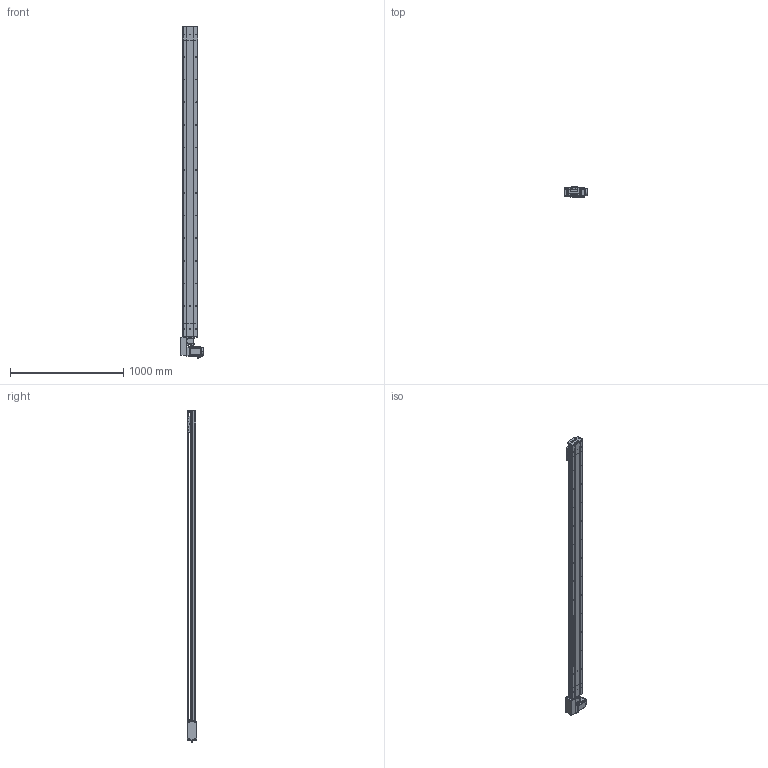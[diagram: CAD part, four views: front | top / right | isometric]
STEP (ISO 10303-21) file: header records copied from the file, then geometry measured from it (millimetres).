
FILE_DESCRIPTION (( 'STEP AP214' ), '1' );
FILE_NAME ('D14 TBH RH S2500.STEP', '2010-06-29T14:32:18', ( 'Conseil Régional Haute-Normandie' ), ( 'Conseil Régional Haute-Normandie' ), 'SwSTEP 2.0', 'SolidWorks 2010', '' );
FILE_SCHEMA (( 'AUTOMOTIVE_DESIGN' ));
Length unit declared in the file: millimetre
Products named in the file (39): corpl tail D14_Default; corps 90BLDC100A-640; vis M5 L16_Default; Couroie_Default; poulie head_Default; Moteur motionking 90BLDC100A-640; couvercle D14 head_Default; couvercle D14_Default; Arbre+rail tail D14; plaque de  bout tail D14_Default; tete d''axe haut D14; D14 TB H RH_Default; vis M5 L8 90°_Default; corp head D14_Default; poulie tail_Default; Arbre+rail head D14; plaque de  bout head D14 RH_Default; couroie 2_Default; avant 90BLDC100A-640; Conecteur_Default; vis M5 L5_Default; renvoi RH_Default; Chariot D14; Cache arbre_Default; Conecteur2_Default; codeur 90BLDC100-640; chariot D14B_Default; Cvis M5 L70_Default; Vis M5 L16-2_Default; Cache_Default; Plaque racord D14_Default; guide D14; vis M5 L12_Default; Tail D14B_Default; couvercle D14 course L2500_Default; D14 couroie L2500_Default; D14 TBH RH S2500; Rail + couroie D14 Course 2500 ; corpl 2500_Default
Assembly tree (68 placements, depth 4):
  D14 TBH RH S2500
    Tail D14B_Default
      vis M5 L12_Default  x4
      Couroie_Default
      vis M5 L8 90°_Default  x2
      plaque de  bout tail D14_Default
      vis M5 L16_Default  x2
      couvercle D14_Default
      Arbre+rail tail D14
      corpl tail D14_Default
      poulie tail_Default
      tete d''axe haut D14
    D14 TB H RH_Default
      couroie 2_Default
      vis M5 L12_Default  x12
      Cache_Default  x2
      Cvis M5 L70_Default  x4
      renvoi RH_Default
      Moteur motionking 90BLDC100A-640
        avant 90BLDC100A-640
        corps 90BLDC100A-640
        Conecteur_Default
        Conecteur2_Default
        codeur 90BLDC100-640
      Plaque racord D14_Default
      poulie head_Default
      Vis M5 L16-2_Default  x4
      corp head D14_Default
      Cache arbre_Default
      Arbre+rail head D14
      couvercle D14 head_Default
      plaque de  bout head D14 RH_Default
      vis M5 L5_Default  x2
    D14 couroie L2500_Default
      corpl 2500_Default
      Rail + couroie D14 Course 2500 
      couvercle D14 course L2500_Default
    chariot D14B_Default
      guide D14  x2
      vis M5 L12_Default  x4
      Chariot D14
Bounding box: 207.2 x 85.9 x 2932.45 mm (x, y, z)
Volume: 10644022.2 mm3; surface area: 3832691.8 mm2
Topology: 92 solids, 92 shells, 2725 faces, 6647 edges, 4290 vertices
Faces by surface type: plane 1613, cylinder 799, bspline 136, torus 89, cone 84, sphere 4
Entity records: 81980 total; most frequent: CARTESIAN_POINT 24001, ORIENTED_EDGE 10154, DIRECTION 10048, EDGE_CURVE 5077, AXIS2_PLACEMENT_3D 3351, VECTOR 3346, LINE 3346, VERTEX_POINT 3340
